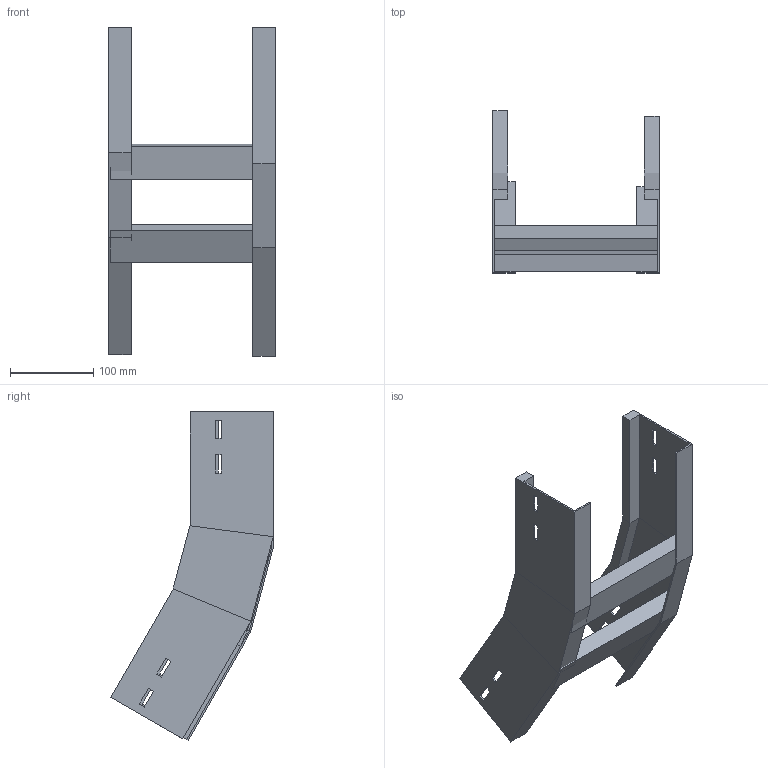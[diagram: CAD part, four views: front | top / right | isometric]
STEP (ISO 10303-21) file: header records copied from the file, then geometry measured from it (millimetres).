
FILE_DESCRIPTION (( 'STEP AP214' ), '1' );
FILE_NAME ('A2X32B3D200XX.step', '2025-03-20T09:56:54', ( '' ), ( '' ), 'SwSTEP 2.0', 'SolidWorks 2023', '' );
FILE_SCHEMA (( 'AUTOMOTIVE_DESIGN' ));
Length unit declared in the file: millimetre
Products named in the file (3): TRAVERSINO_200; A2X32B3D200XX; LONGH.SALITA_30°_H100_R300
Assembly tree (4 placements, depth 2):
  A2X32B3D200XX
    LONGH.SALITA_30°_H100_R300  x2
    TRAVERSINO_200  x2
Bounding box: 200 x 195.25 x 394.23 mm (x, y, z)
Volume: 654886.2 mm3; surface area: 275979.2 mm2
Topology: 4 solids, 4 shells, 96 faces, 232 edges, 144 vertices
Faces by surface type: plane 96
Entity records: 1472 total; most frequent: CARTESIAN_POINT 243, ORIENTED_EDGE 232, DIRECTION 226, LINE 116, EDGE_CURVE 116, VECTOR 116, VERTEX_POINT 72, EDGE_LOOP 56
